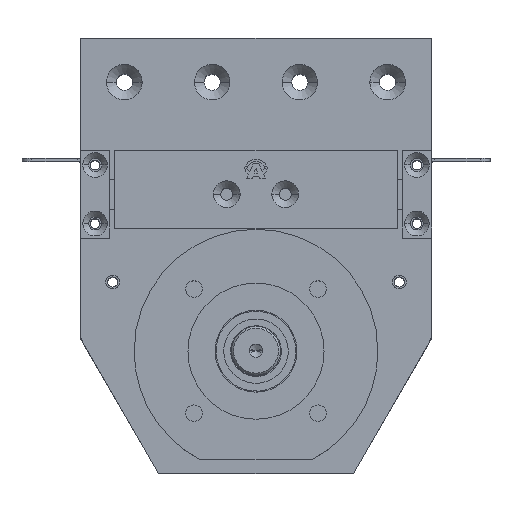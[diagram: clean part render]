
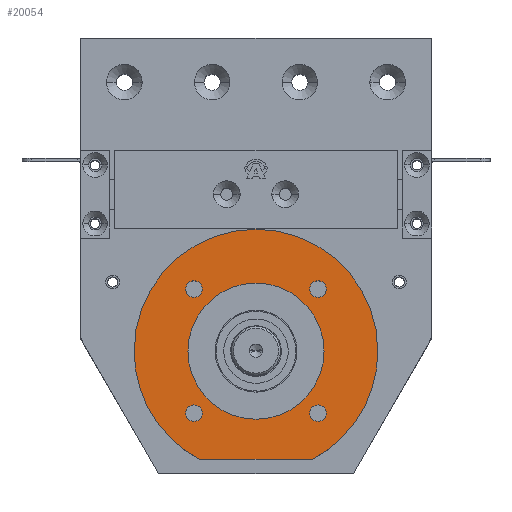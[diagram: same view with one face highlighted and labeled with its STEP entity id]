
A CAD part, top view. The second image highlights one B-rep face of the part: STEP entity #20054.
In plain terms, the highlighted planar face has unit normal (0, 0, 1) as drawn and (-1, 0, 0) by its records, which use the part's own axes.
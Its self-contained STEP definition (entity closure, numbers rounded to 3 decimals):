
#71 = EDGE_CURVE ( 'NONE', #19240, #20046, #19489, .T. ) ;
#274 = FACE_BOUND ( 'NONE', #10979, .T. ) ;
#514 = CARTESIAN_POINT ( 'NONE',  ( 2., 0., 62.5 ) ) ;
#637 = VERTEX_POINT ( 'NONE', #9666 ) ;
#1126 = VERTEX_POINT ( 'NONE', #7953 ) ;
#1740 = DIRECTION ( 'NONE',  ( 0., 0., -1. ) ) ;
#1881 = DIRECTION ( 'NONE',  ( 0., 0., -1. ) ) ;
#2425 = CARTESIAN_POINT ( 'NONE',  ( 2., 0., 0. ) ) ;
#2454 = VERTEX_POINT ( 'NONE', #8945 ) ;
#2476 = AXIS2_PLACEMENT_3D ( 'NONE', #8143, #20799, #2986 ) ;
#2986 = DIRECTION ( 'NONE',  ( 0., 0., -1. ) ) ;
#3560 = EDGE_CURVE ( 'NONE', #20046, #2454, #9241, .T. ) ;
#3776 = EDGE_CURVE ( 'NONE', #10442, #6918, #5259, .T. ) ;
#4513 = FACE_BOUND ( 'NONE', #12043, .T. ) ;
#4561 = EDGE_CURVE ( 'NONE', #11393, #19469, #6353, .T. ) ;
#4735 = AXIS2_PLACEMENT_3D ( 'NONE', #10507, #21622, #18131 ) ;
#4927 = CIRCLE ( 'NONE', #18996, 62.5 ) ;
#4938 = CIRCLE ( 'NONE', #4735, 4.25 ) ;
#4965 = EDGE_CURVE ( 'NONE', #9733, #19240, #4927, .T. ) ;
#5142 = EDGE_LOOP ( 'NONE', ( #10639, #22614 ) ) ;
#5259 = CIRCLE ( 'NONE', #17138, 34.9 ) ;
#5410 = CARTESIAN_POINT ( 'NONE',  ( 2., 31.82, 36.07 ) ) ;
#6002 = CARTESIAN_POINT ( 'NONE',  ( 2., 0., 0. ) ) ;
#6226 = VERTEX_POINT ( 'NONE', #13226 ) ;
#6353 = CIRCLE ( 'NONE', #2476, 4.25 ) ;
#6810 = FACE_BOUND ( 'NONE', #22304, .T. ) ;
#6852 = DIRECTION ( 'NONE',  ( 0., 0., 1. ) ) ;
#6918 = VERTEX_POINT ( 'NONE', #7927 ) ;
#6953 = CIRCLE ( 'NONE', #17415, 34.9 ) ;
#7291 = ORIENTED_EDGE ( 'NONE', *, *, #4965, .T. ) ;
#7488 = CARTESIAN_POINT ( 'NONE',  ( 2., 31.82, -31.82 ) ) ;
#7817 = DIRECTION ( 'NONE',  ( 0., 0., 1. ) ) ;
#7847 = DIRECTION ( 'NONE',  ( 1., 0., 0. ) ) ;
#7854 = EDGE_CURVE ( 'NONE', #9733, #2454, #10208, .T. ) ;
#7927 = CARTESIAN_POINT ( 'NONE',  ( 2., 0., 34.9 ) ) ;
#7953 = CARTESIAN_POINT ( 'NONE',  ( 2., -31.82, 36.07 ) ) ;
#8055 = EDGE_LOOP ( 'NONE', ( #14015, #17169 ) ) ;
#8143 = CARTESIAN_POINT ( 'NONE',  ( 2., 31.82, -31.82 ) ) ;
#8156 = DIRECTION ( 'NONE',  ( 1., 0., 0. ) ) ;
#8203 = ORIENTED_EDGE ( 'NONE', *, *, #71, .T. ) ;
#8355 = AXIS2_PLACEMENT_3D ( 'NONE', #7488, #11193, #19973 ) ;
#8784 = FACE_OUTER_BOUND ( 'NONE', #17431, .T. ) ;
#8945 = CARTESIAN_POINT ( 'NONE',  ( 2., -55.5, -28.74 ) ) ;
#9005 = EDGE_CURVE ( 'NONE', #19469, #11393, #11538, .T. ) ;
#9073 = CARTESIAN_POINT ( 'NONE',  ( 2., -31.82, 31.82 ) ) ;
#9241 = CIRCLE ( 'NONE', #12777, 62.5 ) ;
#9666 = CARTESIAN_POINT ( 'NONE',  ( 2., -31.82, -27.57 ) ) ;
#9686 = DIRECTION ( 'NONE',  ( 0., 0., 1. ) ) ;
#9733 = VERTEX_POINT ( 'NONE', #13137 ) ;
#9989 = DIRECTION ( 'NONE',  ( 0., 0., -1. ) ) ;
#10193 = EDGE_CURVE ( 'NONE', #19877, #6226, #17670, .T. ) ;
#10208 = LINE ( 'NONE', #10567, #11898 ) ;
#10442 = VERTEX_POINT ( 'NONE', #11694 ) ;
#10507 = CARTESIAN_POINT ( 'NONE',  ( 2., -31.82, 31.82 ) ) ;
#10567 = CARTESIAN_POINT ( 'NONE',  ( 2., -55.5, 28.74 ) ) ;
#10639 = ORIENTED_EDGE ( 'NONE', *, *, #11280, .F. ) ;
#10979 = EDGE_LOOP ( 'NONE', ( #12286, #18551 ) ) ;
#11193 = DIRECTION ( 'NONE',  ( 1., 0., 0. ) ) ;
#11213 = DIRECTION ( 'NONE',  ( 1., 0., 0. ) ) ;
#11280 = EDGE_CURVE ( 'NONE', #6918, #10442, #6953, .T. ) ;
#11300 = FACE_BOUND ( 'NONE', #5142, .T. ) ;
#11393 = VERTEX_POINT ( 'NONE', #22432 ) ;
#11494 = DIRECTION ( 'NONE',  ( -1., 0., 0. ) ) ;
#11538 = CIRCLE ( 'NONE', #8355, 4.25 ) ;
#11672 = EDGE_CURVE ( 'NONE', #1126, #17470, #4938, .T. ) ;
#11694 = CARTESIAN_POINT ( 'NONE',  ( 2., 0., -34.9 ) ) ;
#11898 = VECTOR ( 'NONE', #12382, 1000. ) ;
#12043 = EDGE_LOOP ( 'NONE', ( #13283, #22663 ) ) ;
#12286 = ORIENTED_EDGE ( 'NONE', *, *, #14462, .T. ) ;
#12382 = DIRECTION ( 'NONE',  ( 0., 0., -1. ) ) ;
#12614 = DIRECTION ( 'NONE',  ( 0., 0., -1. ) ) ;
#12777 = AXIS2_PLACEMENT_3D ( 'NONE', #6002, #22035, #7817 ) ;
#12941 = AXIS2_PLACEMENT_3D ( 'NONE', #9073, #15994, #12614 ) ;
#13112 = DIRECTION ( 'NONE',  ( 0., 0., -1. ) ) ;
#13136 = DIRECTION ( 'NONE',  ( 0., 0., -1. ) ) ;
#13137 = CARTESIAN_POINT ( 'NONE',  ( 2., -55.5, 28.74 ) ) ;
#13215 = AXIS2_PLACEMENT_3D ( 'NONE', #22913, #11213, #13112 ) ;
#13226 = CARTESIAN_POINT ( 'NONE',  ( 2., 31.82, 27.57 ) ) ;
#13283 = ORIENTED_EDGE ( 'NONE', *, *, #9005, .T. ) ;
#13677 = VERTEX_POINT ( 'NONE', #16778 ) ;
#13896 = ORIENTED_EDGE ( 'NONE', *, *, #20865, .T. ) ;
#14015 = ORIENTED_EDGE ( 'NONE', *, *, #17597, .T. ) ;
#14090 = CIRCLE ( 'NONE', #21935, 4.25 ) ;
#14255 = DIRECTION ( 'NONE',  ( -1., 0., 0. ) ) ;
#14462 = EDGE_CURVE ( 'NONE', #6226, #19877, #14522, .T. ) ;
#14522 = CIRCLE ( 'NONE', #16522, 4.25 ) ;
#15148 = CARTESIAN_POINT ( 'NONE',  ( 2., 0., 0. ) ) ;
#15270 = ORIENTED_EDGE ( 'NONE', *, *, #3560, .T. ) ;
#15727 = EDGE_CURVE ( 'NONE', #13677, #637, #18261, .T. ) ;
#15994 = DIRECTION ( 'NONE',  ( 1., 0., 0. ) ) ;
#16334 = CARTESIAN_POINT ( 'NONE',  ( 2., 31.82, 31.82 ) ) ;
#16450 = AXIS2_PLACEMENT_3D ( 'NONE', #18980, #8156, #9989 ) ;
#16522 = AXIS2_PLACEMENT_3D ( 'NONE', #22298, #7847, #13136 ) ;
#16778 = CARTESIAN_POINT ( 'NONE',  ( 2., -31.82, -36.07 ) ) ;
#16939 = AXIS2_PLACEMENT_3D ( 'NONE', #20508, #11494, #9686 ) ;
#17028 = DIRECTION ( 'NONE',  ( -1., 0., 0. ) ) ;
#17111 = AXIS2_PLACEMENT_3D ( 'NONE', #16334, #17992, #1740 ) ;
#17136 = PLANE ( 'NONE',  #16450 ) ;
#17138 = AXIS2_PLACEMENT_3D ( 'NONE', #15148, #17028, #22650 ) ;
#17169 = ORIENTED_EDGE ( 'NONE', *, *, #11672, .T. ) ;
#17415 = AXIS2_PLACEMENT_3D ( 'NONE', #2425, #18473, #18392 ) ;
#17431 = EDGE_LOOP ( 'NONE', ( #7291, #8203, #15270, #19366 ) ) ;
#17470 = VERTEX_POINT ( 'NONE', #23112 ) ;
#17508 = FACE_BOUND ( 'NONE', #8055, .T. ) ;
#17538 = ORIENTED_EDGE ( 'NONE', *, *, #15727, .T. ) ;
#17597 = EDGE_CURVE ( 'NONE', #17470, #1126, #17918, .T. ) ;
#17670 = CIRCLE ( 'NONE', #17111, 4.25 ) ;
#17789 = CARTESIAN_POINT ( 'NONE',  ( 2., 0., 0. ) ) ;
#17918 = CIRCLE ( 'NONE', #12941, 4.25 ) ;
#17992 = DIRECTION ( 'NONE',  ( 1., 0., 0. ) ) ;
#18131 = DIRECTION ( 'NONE',  ( 0., 0., -1. ) ) ;
#18226 = CARTESIAN_POINT ( 'NONE',  ( 2., -31.82, -31.82 ) ) ;
#18261 = CIRCLE ( 'NONE', #13215, 4.25 ) ;
#18392 = DIRECTION ( 'NONE',  ( 0., 0., 1. ) ) ;
#18473 = DIRECTION ( 'NONE',  ( -1., 0., 0. ) ) ;
#18551 = ORIENTED_EDGE ( 'NONE', *, *, #10193, .T. ) ;
#18777 = CARTESIAN_POINT ( 'NONE',  ( 2., 31.82, -36.07 ) ) ;
#18980 = CARTESIAN_POINT ( 'NONE',  ( 2., 62.5, 0. ) ) ;
#18996 = AXIS2_PLACEMENT_3D ( 'NONE', #17789, #14255, #6852 ) ;
#19240 = VERTEX_POINT ( 'NONE', #514 ) ;
#19366 = ORIENTED_EDGE ( 'NONE', *, *, #7854, .F. ) ;
#19469 = VERTEX_POINT ( 'NONE', #18777 ) ;
#19489 = CIRCLE ( 'NONE', #16939, 62.5 ) ;
#19877 = VERTEX_POINT ( 'NONE', #5410 ) ;
#19973 = DIRECTION ( 'NONE',  ( 0., 0., -1. ) ) ;
#20046 = VERTEX_POINT ( 'NONE', #20730 ) ;
#20054 = ADVANCED_FACE ( 'NONE', ( #6810, #17508, #274, #4513, #11300, #8784 ), #17136, .F. ) ;
#20508 = CARTESIAN_POINT ( 'NONE',  ( 2., 0., 0. ) ) ;
#20730 = CARTESIAN_POINT ( 'NONE',  ( 2., 0., -62.5 ) ) ;
#20799 = DIRECTION ( 'NONE',  ( 1., 0., 0. ) ) ;
#20865 = EDGE_CURVE ( 'NONE', #637, #13677, #14090, .T. ) ;
#21622 = DIRECTION ( 'NONE',  ( 1., 0., 0. ) ) ;
#21638 = DIRECTION ( 'NONE',  ( 1., 0., 0. ) ) ;
#21935 = AXIS2_PLACEMENT_3D ( 'NONE', #18226, #21638, #1881 ) ;
#22035 = DIRECTION ( 'NONE',  ( -1., 0., 0. ) ) ;
#22298 = CARTESIAN_POINT ( 'NONE',  ( 2., 31.82, 31.82 ) ) ;
#22304 = EDGE_LOOP ( 'NONE', ( #17538, #13896 ) ) ;
#22432 = CARTESIAN_POINT ( 'NONE',  ( 2., 31.82, -27.57 ) ) ;
#22614 = ORIENTED_EDGE ( 'NONE', *, *, #3776, .F. ) ;
#22650 = DIRECTION ( 'NONE',  ( 0., 0., 1. ) ) ;
#22663 = ORIENTED_EDGE ( 'NONE', *, *, #4561, .T. ) ;
#22913 = CARTESIAN_POINT ( 'NONE',  ( 2., -31.82, -31.82 ) ) ;
#23112 = CARTESIAN_POINT ( 'NONE',  ( 2., -31.82, 27.57 ) ) ;
